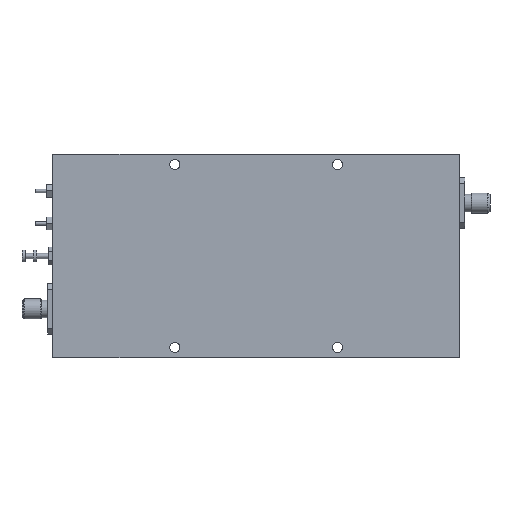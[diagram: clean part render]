
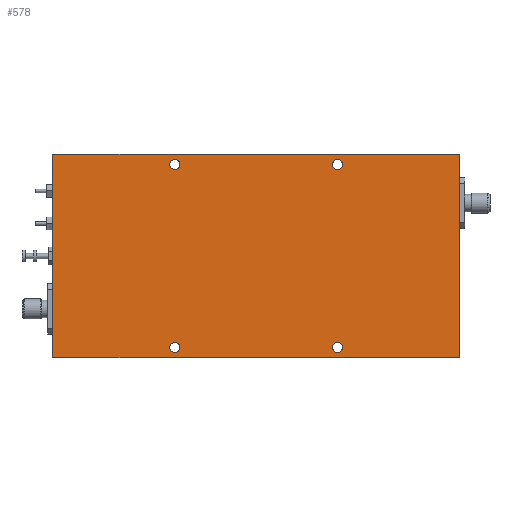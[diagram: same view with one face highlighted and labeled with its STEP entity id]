
A CAD part, top view. The second image highlights one B-rep face of the part: STEP entity #578.
In plain terms, the highlighted planar face has unit normal (0, 0, 1).
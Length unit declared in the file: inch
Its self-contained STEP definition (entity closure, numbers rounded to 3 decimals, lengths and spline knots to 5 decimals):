
#172=CARTESIAN_POINT('',(1.0625,-1.125,0.513));
#173=VERTEX_POINT('',#172);
#174=CARTESIAN_POINT('',(1.0,-1.125,0.513));
#175=DIRECTION('',(0.0,0.0,-1.0));
#176=DIRECTION('',(1.0,0.0,0.0));
#177=AXIS2_PLACEMENT_3D('',#174,#175,#176);
#178=CIRCLE('',#177,0.0625);
#179=EDGE_CURVE('',#173,#173,#178,.T.);
#200=CARTESIAN_POINT('',(-0.9375,1.125,0.513));
#201=VERTEX_POINT('',#200);
#202=CARTESIAN_POINT('',(-1.0,1.125,0.513));
#203=DIRECTION('',(0.0,0.0,-1.0));
#204=DIRECTION('',(1.0,0.0,0.0));
#205=AXIS2_PLACEMENT_3D('',#202,#203,#204);
#206=CIRCLE('',#205,0.0625);
#207=EDGE_CURVE('',#201,#201,#206,.T.);
#228=CARTESIAN_POINT('',(1.0625,1.125,0.513));
#229=VERTEX_POINT('',#228);
#230=CARTESIAN_POINT('',(1.0,1.125,0.513));
#231=DIRECTION('',(0.0,0.0,-1.0));
#232=DIRECTION('',(1.0,0.0,0.0));
#233=AXIS2_PLACEMENT_3D('',#230,#231,#232);
#234=CIRCLE('',#233,0.0625);
#235=EDGE_CURVE('',#229,#229,#234,.T.);
#256=CARTESIAN_POINT('',(-0.9375,-1.125,0.513));
#257=VERTEX_POINT('',#256);
#258=CARTESIAN_POINT('',(-1.0,-1.125,0.513));
#259=DIRECTION('',(0.0,0.0,-1.0));
#260=DIRECTION('',(1.0,0.0,0.0));
#261=AXIS2_PLACEMENT_3D('',#258,#259,#260);
#262=CIRCLE('',#261,0.0625);
#263=EDGE_CURVE('',#257,#257,#262,.T.);
#431=CARTESIAN_POINT('',(2.5,1.25,0.513));
#432=VERTEX_POINT('',#431);
#439=CARTESIAN_POINT('',(2.5,-1.25,0.513));
#440=VERTEX_POINT('',#439);
#441=CARTESIAN_POINT('',(2.5,-1.25,0.513));
#442=DIRECTION('',(0.0,1.0,0.0));
#443=VECTOR('',#442,2.5);
#444=LINE('',#441,#443);
#445=EDGE_CURVE('',#440,#432,#444,.T.);
#473=CARTESIAN_POINT('',(-2.5,-1.25,0.513));
#474=VERTEX_POINT('',#473);
#475=CARTESIAN_POINT('',(-2.5,-1.25,0.513));
#476=DIRECTION('',(1.0,0.0,0.0));
#477=VECTOR('',#476,5.0);
#478=LINE('',#475,#477);
#479=EDGE_CURVE('',#474,#440,#478,.T.);
#504=CARTESIAN_POINT('',(-2.5,1.25,0.513));
#505=VERTEX_POINT('',#504);
#506=CARTESIAN_POINT('',(-2.5,1.25,0.513));
#507=DIRECTION('',(0.0,-1.0,0.0));
#508=VECTOR('',#507,2.5);
#509=LINE('',#506,#508);
#510=EDGE_CURVE('',#505,#474,#509,.T.);
#545=CARTESIAN_POINT('',(2.5,1.25,0.513));
#546=DIRECTION('',(-1.0,0.0,0.0));
#547=VECTOR('',#546,5.0);
#548=LINE('',#545,#547);
#549=EDGE_CURVE('',#432,#505,#548,.T.);
#555=CARTESIAN_POINT('',(0.0,0.0,0.513));
#556=DIRECTION('',(0.0,0.0,1.0));
#557=DIRECTION('',(1.0,0.0,0.0));
#558=AXIS2_PLACEMENT_3D('',#555,#556,#557);
#559=PLANE('',#558);
#560=ORIENTED_EDGE('',*,*,#549,.T.);
#561=ORIENTED_EDGE('',*,*,#510,.T.);
#562=ORIENTED_EDGE('',*,*,#479,.T.);
#563=ORIENTED_EDGE('',*,*,#445,.T.);
#564=EDGE_LOOP('',(#560,#561,#562,#563));
#565=FACE_OUTER_BOUND('',#564,.T.);
#566=ORIENTED_EDGE('',*,*,#179,.T.);
#567=EDGE_LOOP('',(#566));
#568=FACE_BOUND('',#567,.T.);
#569=ORIENTED_EDGE('',*,*,#207,.T.);
#570=EDGE_LOOP('',(#569));
#571=FACE_BOUND('',#570,.T.);
#572=ORIENTED_EDGE('',*,*,#235,.T.);
#573=EDGE_LOOP('',(#572));
#574=FACE_BOUND('',#573,.T.);
#575=ORIENTED_EDGE('',*,*,#263,.T.);
#576=EDGE_LOOP('',(#575));
#577=FACE_BOUND('',#576,.T.);
#578=ADVANCED_FACE('',(#565,#568,#571,#574,#577),#559,.T.);
